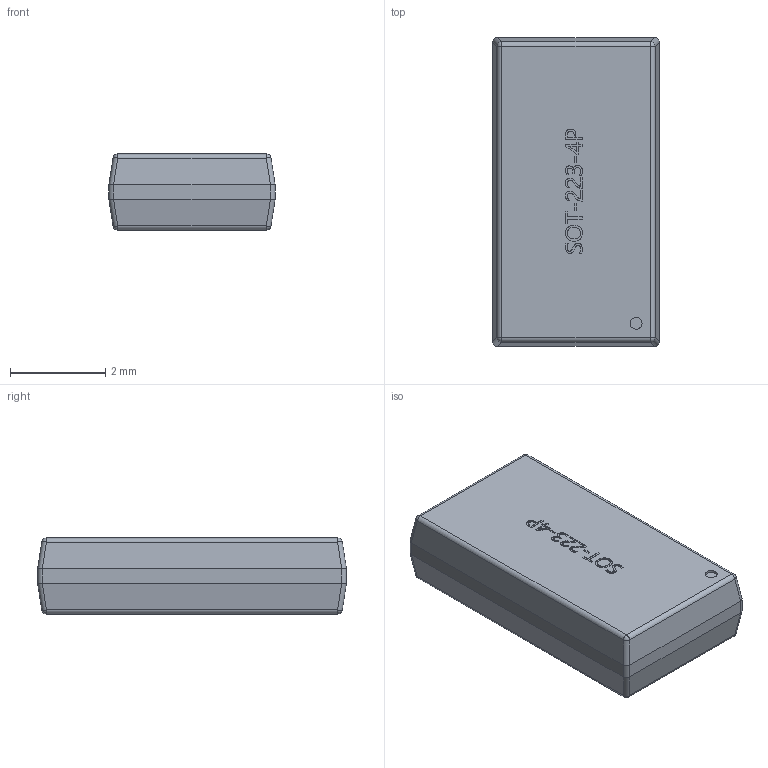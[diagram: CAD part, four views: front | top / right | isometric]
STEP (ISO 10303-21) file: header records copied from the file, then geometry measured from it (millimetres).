
FILE_DESCRIPTION(/* description */ ('STEP AP242 Edition 2','CAx-IF Rec.Pracs.---Representation and Presentation of Product Manufacturing Information (PMI)---4.0---2014-10-13','CAx-IF Rec.Pracs.---3D Tessellated Geometry---0.4---2014-09-14','2;1','CAx-IF Rec.Pracs.---User Defined Attributes---1.5---2016-08-15'),/* implementation_level */ '2;1');
FILE_NAME(/* name */ 'Assembly 1 - SOT-223-3_L6.5-W3.4-P2.30-LS7.0-BR~SOT-223-4P_L6.5-W3.5-H1.6-LS7.0-P2.30~nxQB (14)',/* time_stamp */ '2026-04-02T09:55:21Z',/* author */ (''),/* organization */ (''),/* preprocessor_version */ 'ST-DEVELOPER v20',/* originating_system */ 'ONSHAPE BY PTC INC, 1.212',/* authorisation */ ' ');
FILE_SCHEMA (('AP242_MANAGED_MODEL_BASED_3D_ENGINEERING_MIM_LF { 1 0 10303 442 3 1 4 }'));
Length unit declared in the file: metre
Products named in the file (1): SOT-223-3_L6.5-W3.4-P2.30-LS7.0-BR~SOT-223-4P_L6.5-W3.5-H1.6-LS7.0-P2.
30~nxQB
Bounding box: 3.5 x 6.5 x 1.6 mm (x, y, z)
Volume: 35 mm3; surface area: 72.2 mm2
Topology: 1 solids, 1 shells, 224 faces, 589 edges, 378 vertices
Faces by surface type: plane 128, bspline 48, cylinder 38, sphere 10
Full cylindrical faces by diameter (mm): 0.25 x1
Entity records: 11298 total; most frequent: CARTESIAN_POINT 4523, ORIENTED_EDGE 1156, DIRECTION 907, EDGE_CURVE 578, VERTEX_POINT 378, LINE 375, VECTOR 375, AXIS2_PLACEMENT_3D 266
